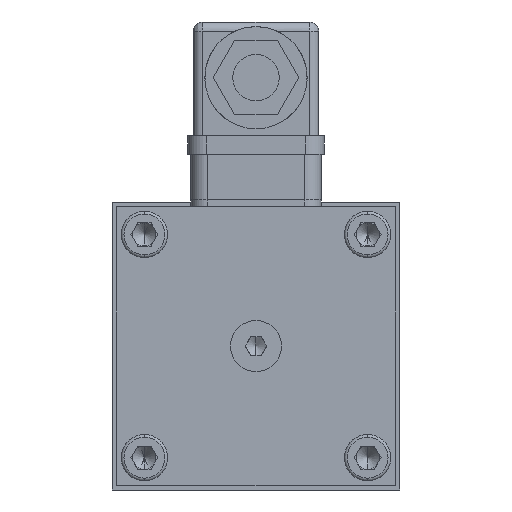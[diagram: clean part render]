
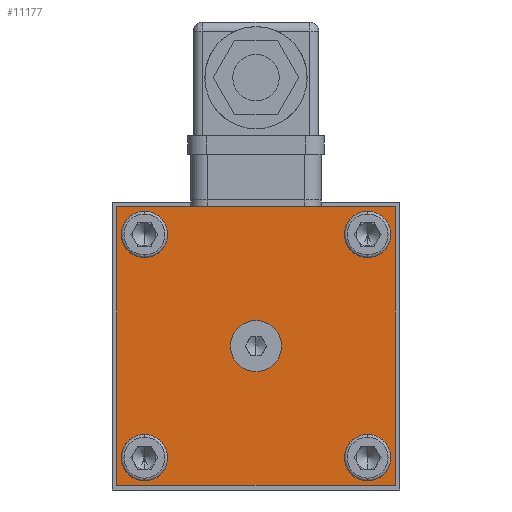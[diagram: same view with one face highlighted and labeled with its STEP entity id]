
A CAD part, left-side view. The second image highlights one B-rep face of the part: STEP entity #11177.
In plain terms, the highlighted planar face has unit normal (-1, 0, 0).
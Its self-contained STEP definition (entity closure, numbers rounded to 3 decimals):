
#127 = DIRECTION ( 'NONE',  ( -1., 0., 0. ) ) ;
#227 = VERTEX_POINT ( 'NONE', #25862 ) ;
#345 = AXIS2_PLACEMENT_3D ( 'NONE', #871, #25683, #9715 ) ;
#593 = ORIENTED_EDGE ( 'NONE', *, *, #14855, .F. ) ;
#669 = AXIS2_PLACEMENT_3D ( 'NONE', #18270, #18267, #18240 ) ;
#742 = EDGE_CURVE ( 'NONE', #9230, #15302, #26261, .T. ) ;
#871 = CARTESIAN_POINT ( 'NONE',  ( -81.2, 24.04, 24.04 ) ) ;
#1162 = ORIENTED_EDGE ( 'NONE', *, *, #1331, .F. ) ;
#1174 = DIRECTION ( 'NONE',  ( 0., 0., 1. ) ) ;
#1331 = EDGE_CURVE ( 'NONE', #5292, #14389, #13906, .T. ) ;
#1424 = CARTESIAN_POINT ( 'NONE',  ( -81.2, -24.04, 29.04 ) ) ;
#1938 = CARTESIAN_POINT ( 'NONE',  ( -81.2, -24.04, -19.04 ) ) ;
#2059 = DIRECTION ( 'NONE',  ( 0., -1., 0. ) ) ;
#2106 = ORIENTED_EDGE ( 'NONE', *, *, #21445, .F. ) ;
#2130 = DIRECTION ( 'NONE',  ( -1., 0., 0. ) ) ;
#2288 = CARTESIAN_POINT ( 'NONE',  ( -81.2, 24.04, 19.04 ) ) ;
#2430 = EDGE_LOOP ( 'NONE', ( #15244, #3825, #17556, #3225 ) ) ;
#3061 = CIRCLE ( 'NONE', #18676, 5. ) ;
#3090 = VERTEX_POINT ( 'NONE', #1424 ) ;
#3189 = CARTESIAN_POINT ( 'NONE',  ( -81.2, -24.04, -29.04 ) ) ;
#3225 = ORIENTED_EDGE ( 'NONE', *, *, #742, .T. ) ;
#3382 = CIRCLE ( 'NONE', #27455, 5.5 ) ;
#3586 = DIRECTION ( 'NONE',  ( -1., 0., 0. ) ) ;
#3664 = EDGE_LOOP ( 'NONE', ( #19544, #20369 ) ) ;
#3705 = EDGE_CURVE ( 'NONE', #3090, #3991, #18929, .T. ) ;
#3825 = ORIENTED_EDGE ( 'NONE', *, *, #9765, .F. ) ;
#3991 = VERTEX_POINT ( 'NONE', #18197 ) ;
#4311 = VERTEX_POINT ( 'NONE', #3189 ) ;
#4513 = FACE_BOUND ( 'NONE', #6816, .T. ) ;
#4610 = DIRECTION ( 'NONE',  ( 0., 0., 1. ) ) ;
#5197 = DIRECTION ( 'NONE',  ( 0., 0., 1. ) ) ;
#5292 = VERTEX_POINT ( 'NONE', #14798 ) ;
#5651 = CARTESIAN_POINT ( 'NONE',  ( -81.2, 30., 30. ) ) ;
#5957 = EDGE_CURVE ( 'NONE', #3991, #3090, #19701, .T. ) ;
#6179 = EDGE_CURVE ( 'NONE', #4311, #23084, #10502, .T. ) ;
#6259 = EDGE_CURVE ( 'NONE', #6716, #13605, #3061, .T. ) ;
#6599 = DIRECTION ( 'NONE',  ( 0., 0., 1. ) ) ;
#6716 = VERTEX_POINT ( 'NONE', #23231 ) ;
#6776 = AXIS2_PLACEMENT_3D ( 'NONE', #16232, #7544, #7550 ) ;
#6816 = EDGE_LOOP ( 'NONE', ( #25241, #24445 ) ) ;
#6930 = EDGE_CURVE ( 'NONE', #13605, #6716, #23261, .T. ) ;
#7368 = EDGE_CURVE ( 'NONE', #13508, #15302, #27450, .T. ) ;
#7497 = CARTESIAN_POINT ( 'NONE',  ( -81.2, -24.04, 24.04 ) ) ;
#7524 = CARTESIAN_POINT ( 'NONE',  ( -81.2, 0., 5.5 ) ) ;
#7544 = DIRECTION ( 'NONE',  ( -1., 0., 0. ) ) ;
#7550 = DIRECTION ( 'NONE',  ( 0., 0., 1. ) ) ;
#7558 = CARTESIAN_POINT ( 'NONE',  ( -81.2, -24.04, 24.04 ) ) ;
#7629 = EDGE_LOOP ( 'NONE', ( #24577, #15671 ) ) ;
#8056 = EDGE_CURVE ( 'NONE', #14389, #5292, #15336, .T. ) ;
#8257 = LINE ( 'NONE', #12503, #24813 ) ;
#9230 = VERTEX_POINT ( 'NONE', #15293 ) ;
#9478 = CARTESIAN_POINT ( 'NONE',  ( -81.2, 0., 0. ) ) ;
#9715 = DIRECTION ( 'NONE',  ( 0., 0., 1. ) ) ;
#9765 = EDGE_CURVE ( 'NONE', #11277, #13508, #8257, .T. ) ;
#9818 = CARTESIAN_POINT ( 'NONE',  ( -81.2, -30., 30. ) ) ;
#9862 = DIRECTION ( 'NONE',  ( -1., 0., 0. ) ) ;
#10502 = CIRCLE ( 'NONE', #18716, 5. ) ;
#10619 = FACE_BOUND ( 'NONE', #7629, .T. ) ;
#11177 = ADVANCED_FACE ( 'NONE', ( #27861, #28577, #4513, #16306, #10619, #21949 ), #18398, .T. ) ;
#11277 = VERTEX_POINT ( 'NONE', #5651 ) ;
#11547 = DIRECTION ( 'NONE',  ( 0., 0., -1. ) ) ;
#11959 = ORIENTED_EDGE ( 'NONE', *, *, #8056, .F. ) ;
#12480 = CIRCLE ( 'NONE', #14351, 5.5 ) ;
#12503 = CARTESIAN_POINT ( 'NONE',  ( -81.2, 30., 30. ) ) ;
#13117 = AXIS2_PLACEMENT_3D ( 'NONE', #16119, #127, #13825 ) ;
#13508 = VERTEX_POINT ( 'NONE', #24767 ) ;
#13605 = VERTEX_POINT ( 'NONE', #14711 ) ;
#13825 = DIRECTION ( 'NONE',  ( 0., 0., 1. ) ) ;
#13906 = CIRCLE ( 'NONE', #345, 5. ) ;
#14111 = AXIS2_PLACEMENT_3D ( 'NONE', #14605, #18248, #24167 ) ;
#14351 = AXIS2_PLACEMENT_3D ( 'NONE', #24000, #3586, #1174 ) ;
#14389 = VERTEX_POINT ( 'NONE', #2288 ) ;
#14605 = CARTESIAN_POINT ( 'NONE',  ( -81.2, -24.04, -24.04 ) ) ;
#14711 = CARTESIAN_POINT ( 'NONE',  ( -81.2, 24.04, -19.04 ) ) ;
#14798 = CARTESIAN_POINT ( 'NONE',  ( -81.2, 24.04, 29.04 ) ) ;
#14855 = EDGE_CURVE ( 'NONE', #24791, #227, #12480, .T. ) ;
#14916 = CARTESIAN_POINT ( 'NONE',  ( -81.2, 30., -30. ) ) ;
#15034 = CARTESIAN_POINT ( 'NONE',  ( -81.2, 30., 30. ) ) ;
#15244 = ORIENTED_EDGE ( 'NONE', *, *, #7368, .F. ) ;
#15293 = CARTESIAN_POINT ( 'NONE',  ( -81.2, 30., -30. ) ) ;
#15302 = VERTEX_POINT ( 'NONE', #28778 ) ;
#15336 = CIRCLE ( 'NONE', #13117, 5. ) ;
#15345 = AXIS2_PLACEMENT_3D ( 'NONE', #7558, #9862, #25646 ) ;
#15671 = ORIENTED_EDGE ( 'NONE', *, *, #5957, .F. ) ;
#15725 = CARTESIAN_POINT ( 'NONE',  ( -81.2, 24.04, -24.04 ) ) ;
#16119 = CARTESIAN_POINT ( 'NONE',  ( -81.2, 24.04, 24.04 ) ) ;
#16126 = VECTOR ( 'NONE', #11547, 1000. ) ;
#16134 = LINE ( 'NONE', #15034, #18268 ) ;
#16232 = CARTESIAN_POINT ( 'NONE',  ( -81.2, 24.04, -24.04 ) ) ;
#16306 = FACE_OUTER_BOUND ( 'NONE', #2430, .T. ) ;
#17556 = ORIENTED_EDGE ( 'NONE', *, *, #23262, .T. ) ;
#18197 = CARTESIAN_POINT ( 'NONE',  ( -81.2, -24.04, 19.04 ) ) ;
#18240 = DIRECTION ( 'NONE',  ( 0., 0., -1. ) ) ;
#18248 = DIRECTION ( 'NONE',  ( -1., 0., 0. ) ) ;
#18267 = DIRECTION ( 'NONE',  ( -1., 0., 0. ) ) ;
#18268 = VECTOR ( 'NONE', #25979, 1000. ) ;
#18270 = CARTESIAN_POINT ( 'NONE',  ( -81.2, 30., 30. ) ) ;
#18398 = PLANE ( 'NONE',  #669 ) ;
#18676 = AXIS2_PLACEMENT_3D ( 'NONE', #15725, #20247, #6599 ) ;
#18716 = AXIS2_PLACEMENT_3D ( 'NONE', #29258, #2130, #4610 ) ;
#18929 = CIRCLE ( 'NONE', #20391, 5. ) ;
#19544 = ORIENTED_EDGE ( 'NONE', *, *, #23672, .F. ) ;
#19701 = CIRCLE ( 'NONE', #15345, 5. ) ;
#20247 = DIRECTION ( 'NONE',  ( -1., 0., 0. ) ) ;
#20369 = ORIENTED_EDGE ( 'NONE', *, *, #6179, .F. ) ;
#20391 = AXIS2_PLACEMENT_3D ( 'NONE', #7497, #21091, #5197 ) ;
#21091 = DIRECTION ( 'NONE',  ( -1., 0., 0. ) ) ;
#21108 = DIRECTION ( 'NONE',  ( -1., 0., 0. ) ) ;
#21445 = EDGE_CURVE ( 'NONE', #227, #24791, #3382, .T. ) ;
#21467 = CIRCLE ( 'NONE', #14111, 5. ) ;
#21949 = FACE_BOUND ( 'NONE', #3664, .T. ) ;
#23084 = VERTEX_POINT ( 'NONE', #1938 ) ;
#23231 = CARTESIAN_POINT ( 'NONE',  ( -81.2, 24.04, -29.04 ) ) ;
#23261 = CIRCLE ( 'NONE', #6776, 5. ) ;
#23262 = EDGE_CURVE ( 'NONE', #11277, #9230, #16134, .T. ) ;
#23672 = EDGE_CURVE ( 'NONE', #23084, #4311, #21467, .T. ) ;
#24000 = CARTESIAN_POINT ( 'NONE',  ( -81.2, 0., 0. ) ) ;
#24167 = DIRECTION ( 'NONE',  ( 0., 0., 1. ) ) ;
#24445 = ORIENTED_EDGE ( 'NONE', *, *, #6259, .F. ) ;
#24577 = ORIENTED_EDGE ( 'NONE', *, *, #3705, .F. ) ;
#24733 = DIRECTION ( 'NONE',  ( 0., 0., 1. ) ) ;
#24767 = CARTESIAN_POINT ( 'NONE',  ( -81.2, -30., 30. ) ) ;
#24791 = VERTEX_POINT ( 'NONE', #7524 ) ;
#24813 = VECTOR ( 'NONE', #2059, 1000. ) ;
#25241 = ORIENTED_EDGE ( 'NONE', *, *, #6930, .F. ) ;
#25646 = DIRECTION ( 'NONE',  ( 0., 0., 1. ) ) ;
#25683 = DIRECTION ( 'NONE',  ( -1., 0., 0. ) ) ;
#25862 = CARTESIAN_POINT ( 'NONE',  ( -81.2, 0., -5.5 ) ) ;
#25979 = DIRECTION ( 'NONE',  ( 0., 0., -1. ) ) ;
#26172 = VECTOR ( 'NONE', #28342, 1000. ) ;
#26261 = LINE ( 'NONE', #14916, #26172 ) ;
#27294 = EDGE_LOOP ( 'NONE', ( #1162, #11959 ) ) ;
#27450 = LINE ( 'NONE', #9818, #16126 ) ;
#27455 = AXIS2_PLACEMENT_3D ( 'NONE', #9478, #21108, #24733 ) ;
#27861 = FACE_BOUND ( 'NONE', #28302, .T. ) ;
#28302 = EDGE_LOOP ( 'NONE', ( #593, #2106 ) ) ;
#28342 = DIRECTION ( 'NONE',  ( 0., -1., 0. ) ) ;
#28577 = FACE_BOUND ( 'NONE', #27294, .T. ) ;
#28778 = CARTESIAN_POINT ( 'NONE',  ( -81.2, -30., -30. ) ) ;
#29258 = CARTESIAN_POINT ( 'NONE',  ( -81.2, -24.04, -24.04 ) ) ;
